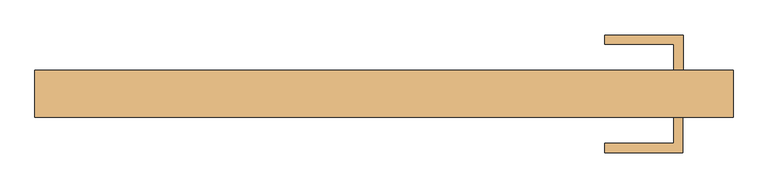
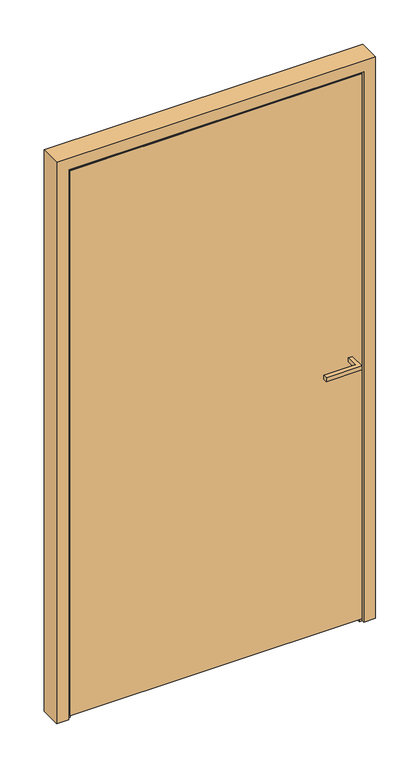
"""IFC4 building model written with IfcOpenShell, lengths in millimetres: door geometry, Reynaers_MasterLine 8_Door_Panel_Inward Opening_Single Vent_Double Sided : Reynaers_MasterLine 8_Door_Panel_Inward Opening_Single Vent_Double Sided."""

from ifc_helpers import new_model, si_unit, frame, origin, place, context, project, spatial, polyline, outline, extrude, faceted_brep, source, transform, mapped, element, save


def door_febc1c80(model_context):
    return source(origin(), model_context, "Body", "SolidModel", [
        extrude(outline(polyline([(488.2934348, 42.5), (473.2934348, 42.5), (473.2934348, 85.0), (360.7934348, 85.0), (360.7934348, 100.0), (488.2934348, 100.0), (488.2934348, 42.5)])), frame((0.0, 0.0, 1001.0), z_axis=(0.0, 0.0, 1.0), x_axis=(1.0, 0.0, 0.0)), (0.0, 0.0, 1.0), 15.0),
        extrude(outline(polyline([(488.0, -34.5), (488.0, -92.0), (360.5, -92.0), (360.5, -77.0), (473.0, -77.0), (473.0, -34.5), (488.0, -34.5)])), frame((0.0, 0.0, 1001.0), z_axis=(0.0, 0.0, 1.0), x_axis=(1.0, 0.0, 0.0)), (0.0, 0.0, 1.0), 15.0),
        extrude(outline(polyline([(-501.5, 39.5), (-501.5, 42.5), (501.5, 42.5), (501.5, 39.5), (-501.5, 39.5)])), frame((0.0, 0.0, 11.0), z_axis=(0.0, 0.0, 1.0), x_axis=(1.0, 0.0, 0.0)), (0.0, 0.0, 1.0), 26.0),
        extrude(outline(polyline([(-17.1888509, 29.0), (2.4044134, 29.0), (2.1867968, 1.0), (-17.1888509, 1.0), (-17.1888509, 29.0)])), frame((-501.5, 0.0, 0.0), z_axis=(1.0, 0.0, 0.0), x_axis=(0.0, 1.0, 0.0)), (0.0, 0.0, 1.0), 1003.0),
        faceted_brep([(-501.5, 38.7001836, 0.0), (-516.5, 38.7001836, 0.0), (-516.5, -25.7, 0.0), (-527.5, -25.7, 0.0), (-527.5, -34.5, 0.0), (-570.0, -34.5, 0.0), (-570.0, 42.5, 0.0), (-501.5, 42.5, 0.0), (-501.5, 38.7001836, 2051.5), (501.5, 38.7001836, 2051.5), (501.5, 38.7001836, 0.0), (516.5, 38.7001836, 0.0), (516.5, 38.7001836, 2066.5), (-516.5, 38.7001836, 2066.5), (-570.0, -34.5, 2120.0), (-570.0, 42.5, 2120.0), (570.0, 42.5, 2120.0), (570.0, 42.5, 0.0), (501.5, 42.5, 0.0), (501.5, 42.5, 2051.5), (-501.5, 42.5, 2051.5), (570.0, -34.5, 2120.0), (570.0, -34.5, 0.0), (527.5, -34.5, 0.0), (527.5, -25.7, 0.0), (516.5, -25.7, 0.0), (-516.5, -25.7, 2066.5), (-527.5, -34.5, 2077.5), (527.5, -34.5, 2077.5), (516.5, -25.7, 2066.5), (527.5, -25.7, 2077.5), (-527.5, -25.7, 2077.5)], [[[0, 1, 2, 3, 4, 5, 6, 7]], [[1, 0, 8, 9, 10, 11, 12, 13]], [[6, 5, 14, 15]], [[7, 6, 15, 16, 17, 18, 19, 20]], [[0, 7, 20, 8]], [[15, 14, 21, 16]], [[8, 20, 19, 9]], [[10, 18, 17, 22, 23, 24, 25, 11]], [[16, 21, 22, 17]], [[9, 19, 18, 10]], [[2, 1, 13, 26]], [[5, 4, 27, 28, 23, 22, 21, 14]], [[26, 13, 12, 29]], [[29, 12, 11, 25]], [[3, 2, 26, 29, 25, 24, 30, 31]], [[4, 3, 31, 27]], [[27, 31, 30, 28]], [[28, 30, 24, 23]]]),
        faceted_brep([(-444.0, -31.5, 1994.0), (-444.0, 39.5, 1994.0), (444.0, 39.5, 1994.0), (444.0, -31.5, 1994.0), (-495.5, -25.7, 2045.5), (-495.5, -31.5, 2045.5), (495.5, -31.5, 2045.5), (495.5, -25.7, 2045.5), (444.0, 39.5, 91.5), (444.0, -31.5, 91.5), (495.5, -31.5, 40.0), (495.5, -25.7, 40.0), (-444.0, 39.5, 91.5), (-444.0, -31.5, 91.5), (-495.5, -31.5, 40.0), (-495.5, -25.7, 40.0), (-506.5, -25.7, 2056.5), (-506.5, -25.7, 29.0), (506.5, -25.7, 29.0), (506.5, -25.7, 2056.5), (-506.5, 33.7001837, 2056.5), (506.5, 33.7001837, 2056.5), (-495.5, 39.5, 2045.5), (-495.5, 33.7001837, 2045.5), (495.5, 33.7001837, 2045.5), (495.5, 39.5, 2045.5), (506.5, 33.7001837, 29.0), (495.5, 33.7001837, 40.0), (495.5, 39.5, 40.0), (-506.5, 33.7001837, 29.0), (-495.5, 33.7001837, 40.0), (-495.5, 39.5, 40.0)], [[[0, 1, 2, 3]], [[4, 5, 6, 7]], [[3, 2, 8, 9]], [[7, 6, 10, 11]], [[9, 8, 12, 13]], [[11, 10, 14, 15]], [[13, 12, 1, 0]], [[5, 14, 10, 6], [3, 9, 13, 0]], [[15, 14, 5, 4]], [[16, 17, 18, 19], [7, 11, 15, 4]], [[20, 16, 19, 21]], [[22, 23, 24, 25]], [[21, 19, 18, 26]], [[25, 24, 27, 28]], [[26, 18, 17, 29]], [[28, 27, 30, 31]], [[29, 17, 16, 20]], [[21, 26, 29, 20], [23, 30, 27, 24]], [[31, 30, 23, 22]], [[25, 28, 31, 22], [1, 12, 8, 2]]]),
        extrude(outline(polyline([(495.5, 42.5), (495.5, 39.5), (-495.5, 39.5), (-495.5, 42.5), (495.5, 42.5)])), frame((0.0, 0.0, 37.0), z_axis=(0.0, 0.0, 1.0), x_axis=(1.0, 0.0, 0.0)), (0.0, 0.0, 1.0), 2008.5),
        extrude(outline(polyline([(521.5, -31.5), (521.5, -34.5), (-521.5, -34.5), (-521.5, -31.5), (521.5, -31.5)])), frame((0.0, 0.0, 14.0), z_axis=(0.0, 0.0, 1.0), x_axis=(1.0, 0.0, 0.0)), (0.0, 0.0, 1.0), 2057.5),
        extrude(outline(polyline([(439.0, -31.5), (-439.0, -31.5), (-439.0, 39.5), (439.0, 39.5), (439.0, -31.5)])), frame((0.0, 0.0, 96.5), z_axis=(0.0, 0.0, 1.0), x_axis=(1.0, 0.0, 0.0)), (0.0, 0.0, 1.0), 1892.5),
    ])


if __name__ == "__main__":
    model = new_model("IFC4")
    model_context = context("Model", 3, world=origin())
    ifc_project = project(units=[si_unit("LENGTHUNIT", "METRE", prefix="MILLI")], contexts=[model_context])
    site = spatial("IfcSite", under=ifc_project)
    building = spatial("IfcBuilding", under=site)
    placement = place(None, origin())
    door_shape = door_febc1c80(model_context)
    element("IfcDoor", 1, ObjectType="Reynaers_MasterLine 8_Door_Panel_Inward Opening_Single Vent_Double Sided : Reynaers_MasterLine 8_Door_Panel_Inward Opening_Single Vent_Double Sided", at=placement, inside=building, context=model_context, shape_type="MappedRepresentation", body=[
        mapped(door_shape, transform((0.0, 0.0, 0.0), x_axis=(1.0, 0.0, 0.0), y_axis=(0.0, 1.0, 0.0), z_axis=(0.0, 0.0, 1.0))),
    ])
    save(model, "model.ifc")
